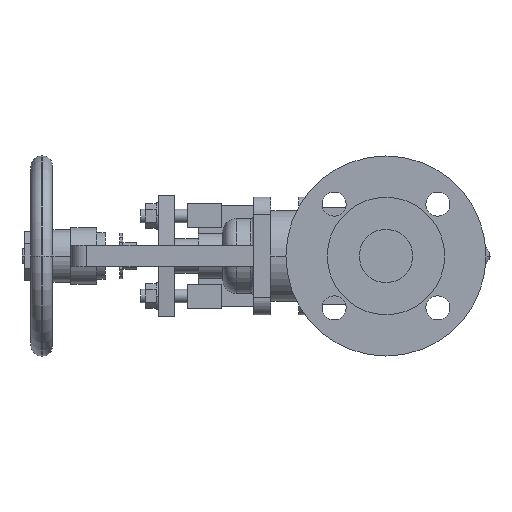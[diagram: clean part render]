
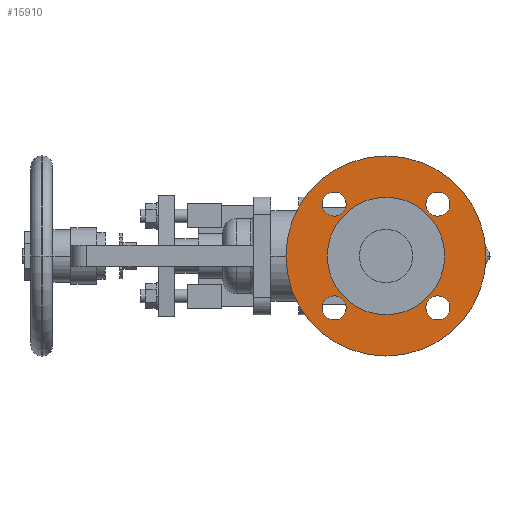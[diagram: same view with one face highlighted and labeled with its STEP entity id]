
A CAD part, left-side view. The second image highlights one B-rep face of the part: STEP entity #15910.
In plain terms, the highlighted planar face has unit normal (-1, 0, 0).
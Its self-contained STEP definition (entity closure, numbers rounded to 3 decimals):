
#3060=CARTESIAN_POINT('',(3.,44.,0.));
#3070=VERTEX_POINT('',#3060);
#3100=CARTESIAN_POINT('',(3.,0.,0.));
#3110=DIRECTION('',(-1.,0.,0.));
#3120=DIRECTION('',(0.,1.,0.));
#3130=AXIS2_PLACEMENT_3D('',#3100,#3110,#3120);
#3140=CIRCLE('',#3130,44.);
#3150=CARTESIAN_POINT('',(3.,-44.,0.));
#3160=VERTEX_POINT('',#3150);
#3170=EDGE_CURVE('',#3160,#3070,#3140,.T.);
#4530=CARTESIAN_POINT('',(3.,0.,75.));
#4540=VERTEX_POINT('',#4530);
#4700=CARTESIAN_POINT('',(3.,0.,-75.));
#4710=VERTEX_POINT('',#4700);
#4740=CARTESIAN_POINT('',(3.,0.,0.));
#4750=DIRECTION('',(1.,0.,0.));
#4760=DIRECTION('',(0.,0.,-1.));
#4770=AXIS2_PLACEMENT_3D('',#4740,#4750,#4760);
#4780=CIRCLE('',#4770,75.);
#4790=EDGE_CURVE('',#4540,#4710,#4780,.T.);
#5020=CARTESIAN_POINT('',(3.,38.891,-47.891));
#5030=VERTEX_POINT('',#5020);
#5190=CARTESIAN_POINT('',(3.,38.891,-29.891));
#5200=VERTEX_POINT('',#5190);
#5230=CARTESIAN_POINT('',(3.,38.891,-38.891));
#5240=DIRECTION('',(1.,0.,0.));
#5250=DIRECTION('',(0.,0.,-1.));
#5260=AXIS2_PLACEMENT_3D('',#5230,#5240,#5250);
#5270=CIRCLE('',#5260,9.);
#5280=EDGE_CURVE('',#5200,#5030,#5270,.T.);
#5510=CARTESIAN_POINT('',(3.,-38.891,-47.891));
#5520=VERTEX_POINT('',#5510);
#5550=CARTESIAN_POINT('',(3.,-38.891,-38.891));
#5560=DIRECTION('',(1.,0.,0.));
#5570=DIRECTION('',(0.,0.,-1.));
#5580=AXIS2_PLACEMENT_3D('',#5550,#5560,#5570);
#5590=CIRCLE('',#5580,9.);
#5600=CARTESIAN_POINT('',(3.,-38.891,-29.891));
#5610=VERTEX_POINT('',#5600);
#5620=EDGE_CURVE('',#5520,#5610,#5590,.T.);
#6000=CARTESIAN_POINT('',(3.,38.891,29.891));
#6010=VERTEX_POINT('',#6000);
#6170=CARTESIAN_POINT('',(3.,38.891,47.891));
#6180=VERTEX_POINT('',#6170);
#6210=CARTESIAN_POINT('',(3.,38.891,38.891));
#6220=DIRECTION('',(1.,0.,0.));
#6230=DIRECTION('',(0.,0.,-1.));
#6240=AXIS2_PLACEMENT_3D('',#6210,#6220,#6230);
#6250=CIRCLE('',#6240,9.);
#6260=EDGE_CURVE('',#6180,#6010,#6250,.T.);
#6490=CARTESIAN_POINT('',(3.,-38.891,47.891));
#6500=VERTEX_POINT('',#6490);
#6660=CARTESIAN_POINT('',(3.,-38.891,29.891));
#6670=VERTEX_POINT('',#6660);
#6700=CARTESIAN_POINT('',(3.,-38.891,38.891));
#6710=DIRECTION('',(1.,0.,0.));
#6720=DIRECTION('',(0.,0.,-1.));
#6730=AXIS2_PLACEMENT_3D('',#6700,#6710,#6720);
#6740=CIRCLE('',#6730,9.);
#6750=EDGE_CURVE('',#6670,#6500,#6740,.T.);
#15560=CARTESIAN_POINT('',(3.,0.,0.));
#15570=DIRECTION('',(1.,0.,0.));
#15580=DIRECTION('',(0.,0.,-1.));
#15590=AXIS2_PLACEMENT_3D('',#15560,#15570,#15580);
#15600=PLANE('',#15590);
#15610=EDGE_CURVE('',#6500,#6670,#6740,.T.);
#15620=ORIENTED_EDGE('',*,*,#15610,.T.);
#15630=ORIENTED_EDGE('',*,*,#6750,.T.);
#15640=EDGE_LOOP('',(#15630,#15620));
#15650=FACE_BOUND('',#15640,.T.);
#15660=EDGE_CURVE('',#6010,#6180,#6250,.T.);
#15670=ORIENTED_EDGE('',*,*,#15660,.T.);
#15680=ORIENTED_EDGE('',*,*,#6260,.T.);
#15690=EDGE_LOOP('',(#15680,#15670));
#15700=FACE_BOUND('',#15690,.T.);
#15710=ORIENTED_EDGE('',*,*,#5620,.T.);
#15720=EDGE_CURVE('',#5610,#5520,#5590,.T.);
#15730=ORIENTED_EDGE('',*,*,#15720,.T.);
#15740=EDGE_LOOP('',(#15730,#15710));
#15750=FACE_BOUND('',#15740,.T.);
#15760=EDGE_CURVE('',#5030,#5200,#5270,.T.);
#15770=ORIENTED_EDGE('',*,*,#15760,.T.);
#15780=ORIENTED_EDGE('',*,*,#5280,.T.);
#15790=EDGE_LOOP('',(#15780,#15770));
#15800=FACE_BOUND('',#15790,.T.);
#15810=EDGE_CURVE('',#4710,#4540,#4780,.T.);
#15820=ORIENTED_EDGE('',*,*,#15810,.F.);
#15830=ORIENTED_EDGE('',*,*,#4790,.F.);
#15840=EDGE_LOOP('',(#15830,#15820));
#15850=FACE_OUTER_BOUND('',#15840,.T.);
#15860=ORIENTED_EDGE('',*,*,#3170,.F.);
#15870=EDGE_CURVE('',#3070,#3160,#3140,.T.);
#15880=ORIENTED_EDGE('',*,*,#15870,.F.);
#15890=EDGE_LOOP('',(#15880,#15860));
#15900=FACE_BOUND('',#15890,.T.);
#15910=ADVANCED_FACE('',(#15650,#15700,#15750,#15800,#15850,#15900),
#15600,.F.);
